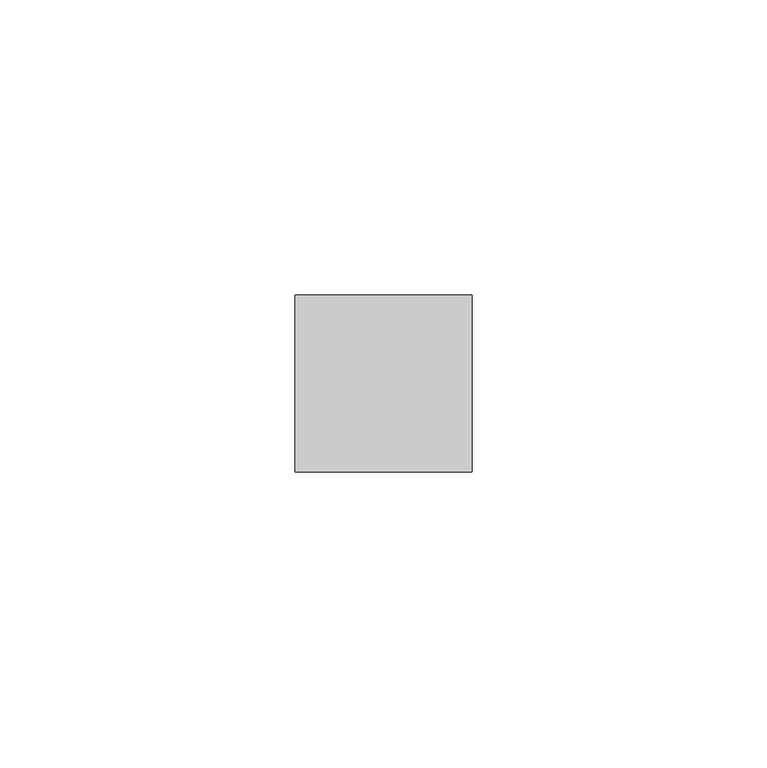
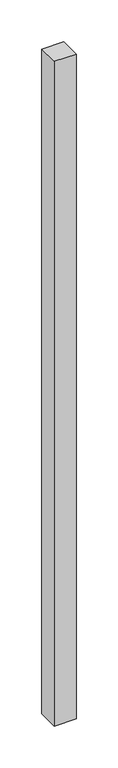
"""IFC4 building model written with IfcOpenShell, lengths in millimetres: member geometry, 矩形竖梃 : 30mm 正方形."""

from ifc_helpers import new_model, si_unit, frame, origin, place, context, project, spatial, polyline, outline, extrude, source, transform, mapped, element, save


def member_f6acb2cb(model_context):
    return source(origin(), model_context, "Body", "SweptSolid", [
        extrude(outline(polyline([(15.0, 15.0), (15.0, -15.0), (-15.0, -15.0), (-15.0, 15.0), (15.0, 15.0)])), frame((0.0, 0.0, -970.0), z_axis=(0.0, 0.0, 1.0), x_axis=(1.0, 0.0, 0.0)), (0.0, 0.0, 1.0), 970.0),
    ])


if __name__ == "__main__":
    model = new_model("IFC4")
    model_context = context("Model", 3, world=origin())
    ifc_project = project(units=[si_unit("LENGTHUNIT", "METRE", prefix="MILLI")], contexts=[model_context])
    site = spatial("IfcSite", under=ifc_project)
    building = spatial("IfcBuilding", under=site)
    placement = place(None, origin())
    member_shape = member_f6acb2cb(model_context)
    element("IfcMember", 1, ObjectType="矩形竖梃 : 30mm 正方形", at=placement, inside=building, context=model_context, shape_type="MappedRepresentation", body=[
        mapped(member_shape, transform((0.0, 0.0, 0.0), x_axis=(1.0, 0.0, 0.0), y_axis=(0.0, 1.0, 0.0), z_axis=(0.0, 0.0, 1.0))),
    ])
    save(model, "model.ifc")
